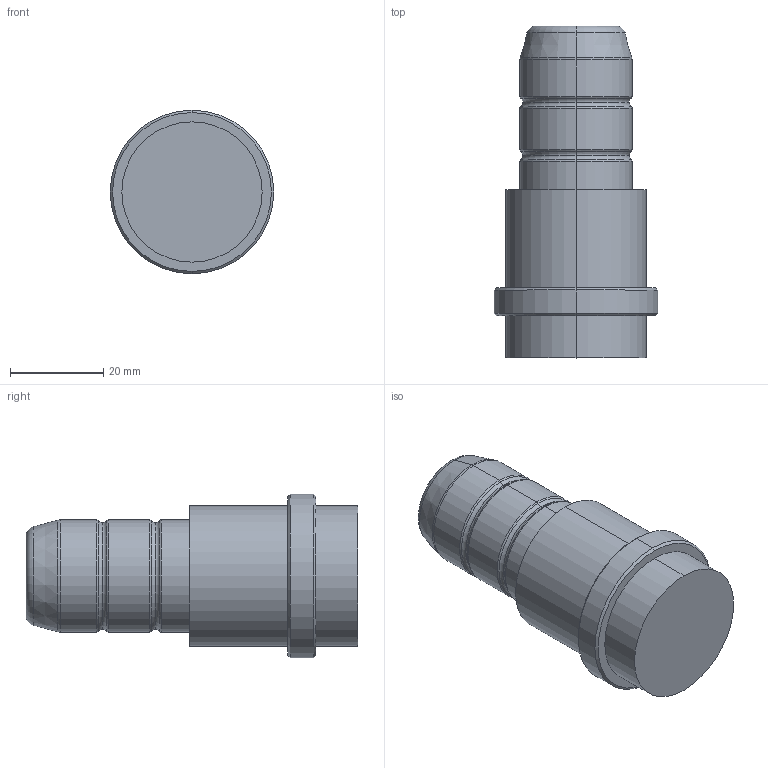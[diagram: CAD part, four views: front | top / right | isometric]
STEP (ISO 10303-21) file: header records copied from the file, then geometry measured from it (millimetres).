
FILE_DESCRIPTION (( 'STEP AP214' ), '1' );
FILE_NAME ('BR00 24x27x35.STEP', '2019-05-15T14:24:17', ( 'August' ), ( '' ), 'SwSTEP 2.0', 'SolidWorks 2018', '' );
FILE_SCHEMA (( 'AUTOMOTIVE_DESIGN' ));
Length unit declared in the file: millimetre
Products named in the file (1): BR00 24x27x35
Bounding box: 35 x 71 x 35 mm (x, y, z)
Volume: 42153.8 mm3; surface area: 7845.8 mm2
Topology: 1 solids, 1 shells, 43 faces, 84 edges, 46 vertices
Faces by surface type: torus 20, cylinder 12, cone 6, plane 5
Entity records: 1138 total; most frequent: DIRECTION 238, CARTESIAN_POINT 174, ORIENTED_EDGE 168, AXIS2_PLACEMENT_3D 110, EDGE_CURVE 84, CIRCLE 66, EDGE_LOOP 46, VERTEX_POINT 46
